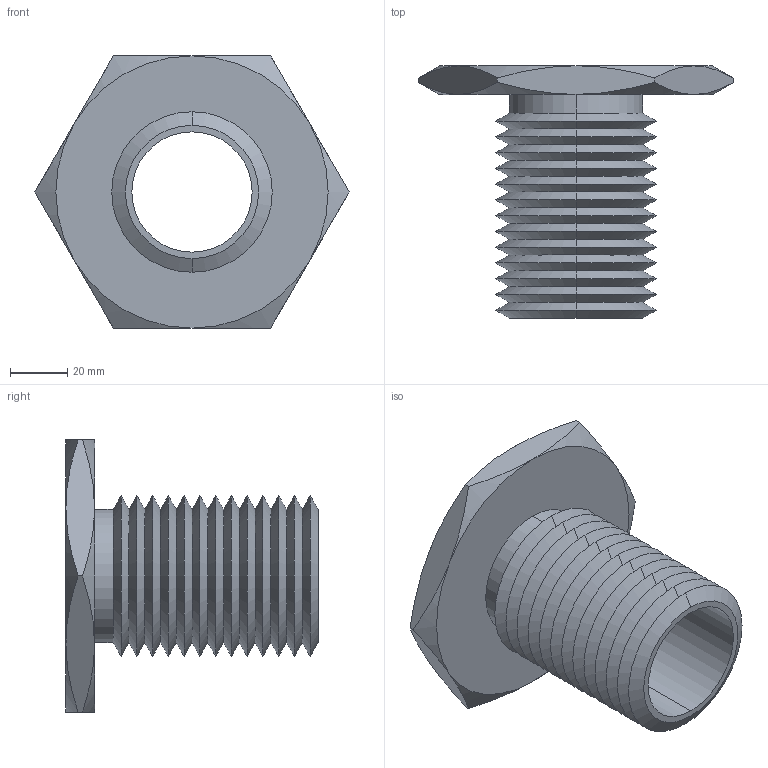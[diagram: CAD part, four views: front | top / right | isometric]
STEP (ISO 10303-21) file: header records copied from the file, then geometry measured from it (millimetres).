
FILE_DESCRIPTION (( 'STEP AP203' ), '1' );
FILE_NAME ('63302.W0056_M42x4,5.step', '2013-12-08T11:23:24', ( 'User' ), ( '' ), 'SwSTEP 2.0', 'SolidWorks 2009', '' );
FILE_SCHEMA (( 'CONFIG_CONTROL_DESIGN' ));
Length unit declared in the file: millimetre
Products named in the file (1): 63302.W0056_M42x4,5
Bounding box: 109.7 x 88 x 95 mm (x, y, z)
Volume: 111819.5 mm3; surface area: 50676 mm2
Topology: 1 solids, 1 shells, 79 faces, 162 edges, 86 vertices
Faces by surface type: cone 66, plane 9, cylinder 4
Entity records: 2271 total; most frequent: CARTESIAN_POINT 544, DIRECTION 372, ORIENTED_EDGE 324, EDGE_CURVE 162, AXIS2_PLACEMENT_3D 154, VERTEX_POINT 86, EDGE_LOOP 82, ADVANCED_FACE 79
